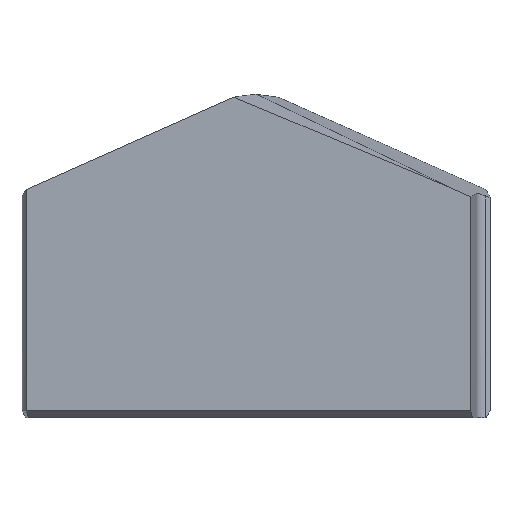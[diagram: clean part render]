
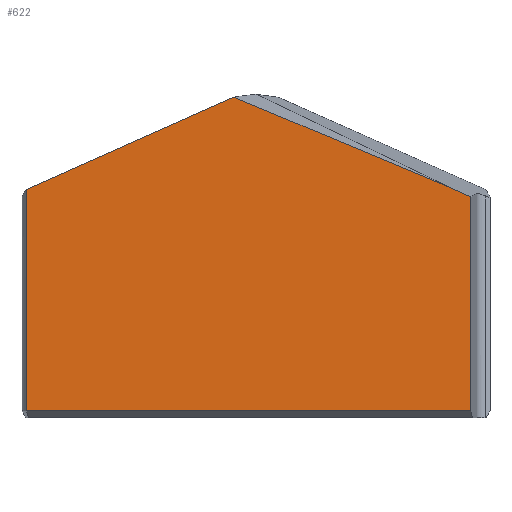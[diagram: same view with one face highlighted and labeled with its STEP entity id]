
A CAD part, top view. The second image highlights one B-rep face of the part: STEP entity #622.
In plain terms, the highlighted planar face has unit normal (0, 0, 1).
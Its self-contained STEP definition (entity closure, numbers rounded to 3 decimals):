
#9 = EDGE_CURVE ( 'NONE', #597, #132, #78, .T. ) ;
#20 = PLANE ( 'NONE',  #377 ) ;
#29 = ORIENTED_EDGE ( 'NONE', *, *, #586, .T. ) ;
#54 = ORIENTED_EDGE ( 'NONE', *, *, #472, .T. ) ;
#58 = CARTESIAN_POINT ( 'NONE',  ( 0., 14.56, 4. ) ) ;
#63 = DIRECTION ( 'NONE',  ( -0.914, -0.407, 0. ) ) ;
#78 = LINE ( 'NONE', #214, #612 ) ;
#89 = DIRECTION ( 'NONE',  ( 0., 1., 0. ) ) ;
#112 = FACE_OUTER_BOUND ( 'NONE', #296, .T. ) ;
#124 = CARTESIAN_POINT ( 'NONE',  ( -10.122, 0.296, 4. ) ) ;
#132 = VERTEX_POINT ( 'NONE', #470 ) ;
#144 = DIRECTION ( 'NONE',  ( -0.922, 0.386, 0. ) ) ;
#158 = CARTESIAN_POINT ( 'NONE',  ( -10.124, 0.3, 4. ) ) ;
#168 = VECTOR ( 'NONE', #89, 1000. ) ;
#195 = VERTEX_POINT ( 'NONE', #478 ) ;
#204 = ORIENTED_EDGE ( 'NONE', *, *, #410, .F. ) ;
#213 = CARTESIAN_POINT ( 'NONE',  ( -10.124, 0., 4. ) ) ;
#214 = CARTESIAN_POINT ( 'NONE',  ( 5.181, 11.638, 4. ) ) ;
#219 = CARTESIAN_POINT ( 'NONE',  ( -10.124, 0.3, 4. ) ) ;
#221 = CARTESIAN_POINT ( 'NONE',  ( -10.118, 0.289, 4. ) ) ;
#235 = EDGE_CURVE ( 'NONE', #548, #597, #595, .T. ) ;
#254 = VECTOR ( 'NONE', #144, 1000. ) ;
#257 = CARTESIAN_POINT ( 'NONE',  ( -10.124, 10.052, 4. ) ) ;
#260 = EDGE_CURVE ( 'NONE', #132, #396, #524, .T. ) ;
#264 = CARTESIAN_POINT ( 'NONE',  ( -0.976, 14.126, 4. ) ) ;
#270 = CARTESIAN_POINT ( 'NONE',  ( 9.47, 0.289, 4. ) ) ;
#296 = EDGE_LOOP ( 'NONE', ( #330, #630, #54, #204, #29, #559, #311 ) ) ;
#306 = DIRECTION ( 'NONE',  ( 0., 1., 0. ) ) ;
#311 = ORIENTED_EDGE ( 'NONE', *, *, #235, .T. ) ;
#315 = DIRECTION ( 'NONE',  ( 1., 0., 0. ) ) ;
#330 = ORIENTED_EDGE ( 'NONE', *, *, #9, .T. ) ;
#369 = DIRECTION ( 'NONE',  ( -0.914, 0.407, 0. ) ) ;
#377 = AXIS2_PLACEMENT_3D ( 'NONE', #413, #464, #418 ) ;
#381 = LINE ( 'NONE', #507, #575 ) ;
#394 = LINE ( 'NONE', #213, #427 ) ;
#396 = VERTEX_POINT ( 'NONE', #264 ) ;
#399 = LINE ( 'NONE', #58, #407 ) ;
#407 = VECTOR ( 'NONE', #63, 1000. ) ;
#410 = EDGE_CURVE ( 'NONE', #533, #480, #394, .T. ) ;
#413 = CARTESIAN_POINT ( 'NONE',  ( 0., 0., 4. ) ) ;
#418 = DIRECTION ( 'NONE',  ( 1., 0., 0. ) ) ;
#424 = EDGE_CURVE ( 'NONE', #195, #548, #381, .T. ) ;
#427 = VECTOR ( 'NONE', #306, 1000. ) ;
#464 = DIRECTION ( 'NONE',  ( 0., 0., 1. ) ) ;
#468 = CARTESIAN_POINT ( 'NONE',  ( 9.47, 9.728, 4. ) ) ;
#470 = CARTESIAN_POINT ( 'NONE',  ( 8.566, 10.131, 4. ) ) ;
#472 = EDGE_CURVE ( 'NONE', #396, #480, #399, .T. ) ;
#478 = CARTESIAN_POINT ( 'NONE',  ( -10.118, 0.289, 4. ) ) ;
#480 = VERTEX_POINT ( 'NONE', #257 ) ;
#507 = CARTESIAN_POINT ( 'NONE',  ( 9.948, 0.289, 4. ) ) ;
#524 = LINE ( 'NONE', #531, #254 ) ;
#531 = CARTESIAN_POINT ( 'NONE',  ( 4.886, 11.671, 4. ) ) ;
#533 = VERTEX_POINT ( 'NONE', #158 ) ;
#543 = B_SPLINE_CURVE_WITH_KNOTS ( 'NONE', 3,
 ( #219, #124, #563, #221 ),
 .UNSPECIFIED., .F., .F.,
 ( 4, 4 ),
 ( 0., 0. ),
 .UNSPECIFIED. ) ;
#548 = VERTEX_POINT ( 'NONE', #270 ) ;
#559 = ORIENTED_EDGE ( 'NONE', *, *, #424, .T. ) ;
#563 = CARTESIAN_POINT ( 'NONE',  ( -10.12, 0.292, 4. ) ) ;
#575 = VECTOR ( 'NONE', #315, 1000. ) ;
#584 = CARTESIAN_POINT ( 'NONE',  ( 9.47, 0., 4. ) ) ;
#586 = EDGE_CURVE ( 'NONE', #533, #195, #543, .T. ) ;
#595 = LINE ( 'NONE', #584, #168 ) ;
#597 = VERTEX_POINT ( 'NONE', #468 ) ;
#612 = VECTOR ( 'NONE', #369, 1000. ) ;
#622 = ADVANCED_FACE ( 'NONE', ( #112 ), #20, .T. ) ;
#630 = ORIENTED_EDGE ( 'NONE', *, *, #260, .T. ) ;
